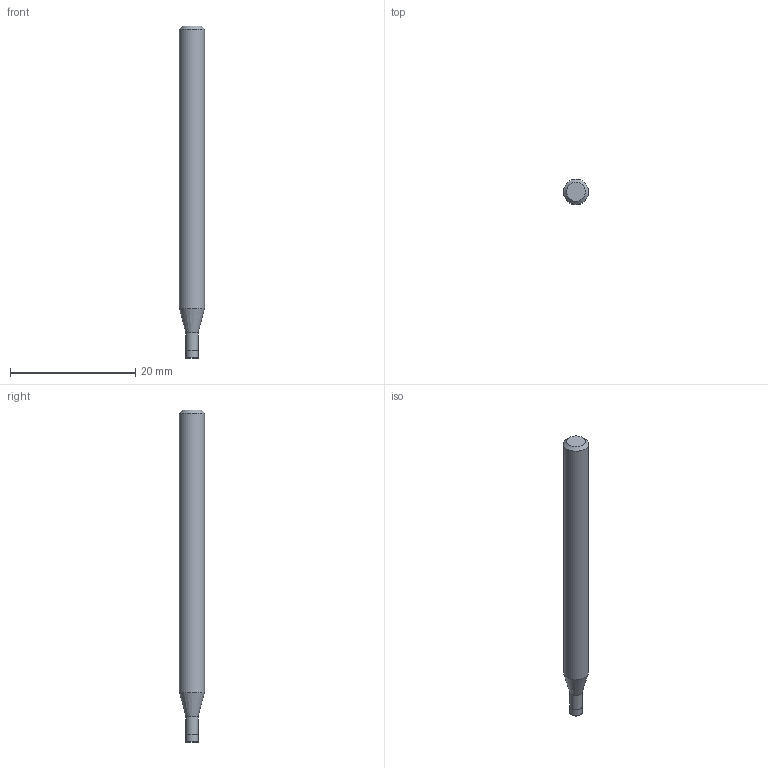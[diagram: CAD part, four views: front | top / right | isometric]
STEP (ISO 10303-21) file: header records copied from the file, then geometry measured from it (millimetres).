
FILE_DESCRIPTION((''),'2;1');
FILE_NAME('C:\Users\nsx150\AppData\Local\Temp\Mastercam 2021\LJSIDMOTM8\TEMP.step','2021-08-03T13:51:06',(''),(''),'STEP Write','Mastercam 2021 ... CNC Software, Inc.','');
FILE_SCHEMA(('AUTOMOTIVE_DESIGN'));
Length unit declared in the file: millimetre
Products named in the file (1): None
Bounding box: 4 x 4 x 53 mm (x, y, z)
Volume: 605.8 mm3; surface area: 646.9 mm2
Topology: 2 solids, 2 shells, 10 faces, 14 edges, 8 vertices
Faces by surface type: plane 4, cylinder 3, cone 2, torus 1
Full cylindrical faces by diameter (mm): 1.94 x1, 2 x1, 4 x1
Entity records: 232 total; most frequent: DIRECTION 40, CARTESIAN_POINT 28, AXIS2_PLACEMENT_3D 20, ORIENTED_EDGE 16, EDGE_LOOP 16, STYLED_ITEM 13, ADVANCED_FACE 10, FACE_BOUND 10
